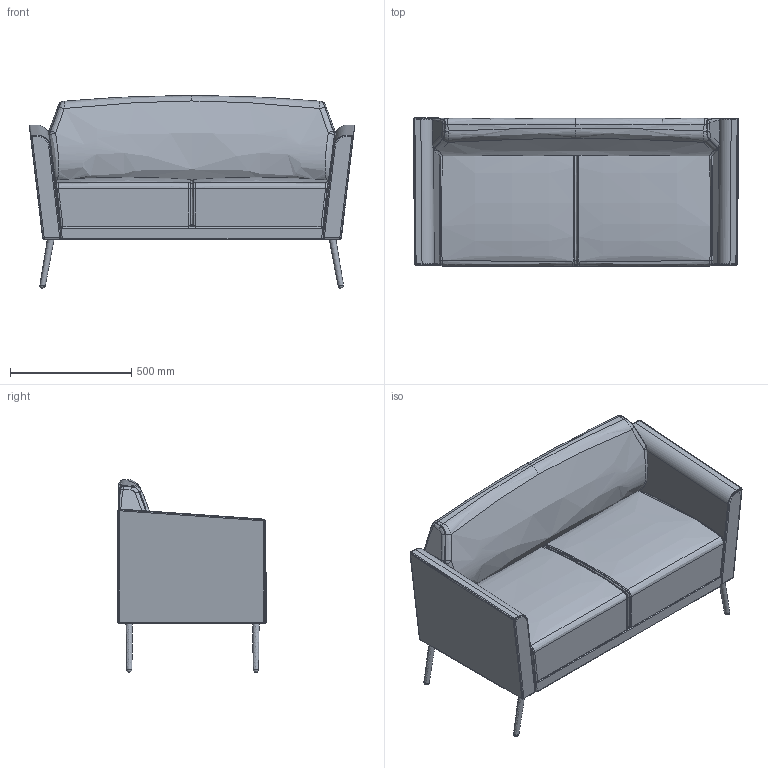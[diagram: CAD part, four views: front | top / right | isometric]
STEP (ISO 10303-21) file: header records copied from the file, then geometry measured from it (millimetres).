
FILE_DESCRIPTION(/* description */ (''),/* implementation_level */ '2;1');
FILE_NAME(/* name */ '2312_Metal.step',/* time_stamp */ '2026-07-28T15:17:33-07:00',/* author */ (''),/* organization */ (''),/* preprocessor_version */ 'ST-DEVELOPER v20.1',/* originating_system */ 'Autodesk Translation Framework v15.8.0.0',/* authorisation */ '');
FILE_SCHEMA (('AUTOMOTIVE_DESIGN { 1 0 10303 214 3 1 1 }'));
Length unit declared in the file: inch
Products named in the file (2): BREEZE Lounge High Back_Allmodels; BREEZE Love 12-7-2022 v7
Assembly tree (1 placements, depth 2):
  BREEZE Lounge High Back_Allmodels
    BREEZE Love 12-7-2022 v7
Bounding box: 1340.86 x 610.26 x 794.36 mm (x, y, z)
Volume: 257563936.6 mm3; surface area: 7478808.7 mm2
Topology: 23 solids, 23 shells, 529 faces, 1148 edges, 649 vertices
Faces by surface type: bspline 259, cylinder 113, plane 75, torus 43, sphere 31, cone 8
Entity records: 27653 total; most frequent: CARTESIAN_POINT 17572, ORIENTED_EDGE 2264, DIRECTION 1681, EDGE_CURVE 1132, AXIS2_PLACEMENT_3D 734, VERTEX_POINT 649, EDGE_LOOP 537, FACE_OUTER_BOUND 529
